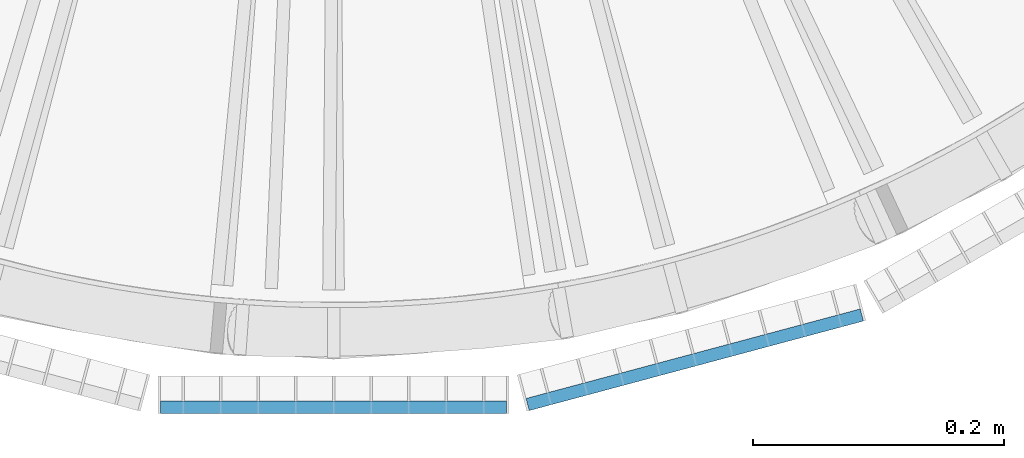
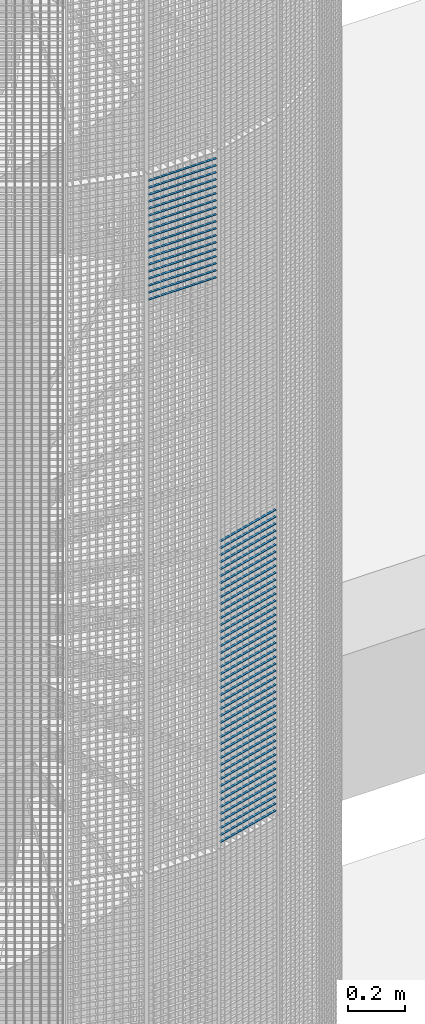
# One storey, part 141 of 1148: 62 beams, 2 elements without a shape of their own.
"""IFC2X3 building model written with IfcOpenShell, lengths in millimetres."""

import ifcopenshell
import ifcopenshell.guid

model = None  # the IFC model being written
_history = None  # IfcOwnerHistory: only IFC2X3 demands one
_inside = {}  # id of a spatial element -> (the spatial element, [elements in it])
_under = {}  # id of a project, library or spatial element -> (it, [spatial elements below it])
_declared = {}  # id of a project -> (the project, [libraries it declares])
_typed = {}  # id of a type object -> (the type object, [elements of that type])
_made_of = {}  # id of a material, layer set ... -> (it, [elements and type objects made of it])


def new_model(schema):
    """Start an empty IFC model of exactly this schema.

    Asked for "IFC4X3", IfcOpenShell would pick the latest addendum, in which some entities
    have other attributes; the version numbers below select the first issue.
    IFC2X3 requires an IfcOwnerHistory on every rooted entity: one is made here for all.
    """
    global model, _history
    if schema == "IFC4X3":
        model = ifcopenshell.file(schema_version=(4, 3, 0, 0))
    else:
        model = ifcopenshell.file(schema=schema)
    _inside.clear()
    _under.clear()
    _declared.clear()
    _typed.clear()
    _made_of.clear()
    _history = None
    if model.schema == "IFC2X3":
        org = make("IfcOrganization", Name="unknown")
        user = make(
            "IfcPersonAndOrganization",
            ThePerson=make("IfcPerson", FamilyName="unknown"),
            TheOrganization=org,
        )
        app = make(
            "IfcApplication",
            ApplicationDeveloper=org,
            Version="unknown",
            ApplicationFullName="unknown",
            ApplicationIdentifier="unknown",
        )
        _history = make(
            "IfcOwnerHistory",
            OwningUser=user,
            OwningApplication=app,
            ChangeAction="ADDED",
            CreationDate=0,
        )
    return model


def make(cls, **values):
    """One entity of the class cls with the attributes given. An attribute that is None is left unset."""
    return model.create_entity(
        cls, **{name: value for name, value in values.items() if value is not None}
    )


def rooted(cls, **values):
    """An entity with a GlobalId (a new one), such as an element, a storey or a relation."""
    return make(cls, GlobalId=ifcopenshell.guid.new(), OwnerHistory=_history, **values)


def si_unit(unit_type, name, prefix=None):
    """IfcSIUnit, for example si_unit("LENGTHUNIT", "METRE", prefix="MILLI")."""
    return make("IfcSIUnit", UnitType=unit_type, Prefix=prefix, Name=name)


def assignment(units):
    """IfcUnitAssignment: the units of a project."""
    return None if units is None else make("IfcUnitAssignment", Units=units)


def point(xyz):
    """IfcCartesianPoint."""
    return None if xyz is None else make("IfcCartesianPoint", Coordinates=xyz)


def direction(xyz):
    """IfcDirection."""
    return None if xyz is None else make("IfcDirection", DirectionRatios=xyz)


def frame(location, z_axis=None, x_axis=None):
    """IfcAxis2Placement3D, a coordinate frame: its origin and axes. An axis left out is left unset."""
    return make(
        "IfcAxis2Placement3D",
        Location=point(location),
        Axis=direction(z_axis),
        RefDirection=direction(x_axis),
    )


def frame_2d(location, x_axis=None):
    """IfcAxis2Placement2D, a coordinate frame in the plane: its origin and x axis."""
    return make(
        "IfcAxis2Placement2D", Location=point(location), RefDirection=direction(x_axis)
    )


def origin_with_axes():
    """The frame at (0, 0, 0) with the z axis (0, 0, 1) and the x axis (1, 0, 0) written out."""
    return frame((0.0, 0.0, 0.0), z_axis=(0.0, 0.0, 1.0), x_axis=(1.0, 0.0, 0.0))


def origin_2d_with_axis():
    """The frame at (0, 0) in the plane with the x axis (1, 0) written out."""
    return frame_2d((0.0, 0.0), x_axis=(1.0, 0.0))


def place(relative_to, where):
    """IfcLocalPlacement: puts the frame where relative to a parent placement (None: the world)."""
    return make(
        "IfcLocalPlacement", PlacementRelTo=relative_to, RelativePlacement=where
    )


def context(
    kind, dimensions, precision=None, world=None, true_north=None, identifier=None
):
    """IfcGeometricRepresentationContext, for example the 3D "Model" context."""
    return make(
        "IfcGeometricRepresentationContext",
        ContextIdentifier=identifier,
        ContextType=kind,
        CoordinateSpaceDimension=dimensions,
        Precision=precision,
        WorldCoordinateSystem=world,
        TrueNorth=true_north,
    )


def subcontext(parent, identifier, kind, view, scale=None):
    """IfcGeometricRepresentationSubContext, for example "Body" below "Model"."""
    return make(
        "IfcGeometricRepresentationSubContext",
        ContextIdentifier=identifier,
        ContextType=kind,
        ParentContext=parent,
        TargetScale=scale,
        TargetView=view,
    )


def project(units=None, contexts=None):
    """IfcProject with its units and contexts."""
    return rooted(
        "IfcProject",
        Name="project",
        RepresentationContexts=contexts,
        UnitsInContext=assignment(units),
    )


def spatial(cls, under=None, at=None, **own):
    """A site, building, storey or space (cls), placed at a placement, below another one or the project."""
    s = rooted(cls, ObjectPlacement=at, **own)
    if under is not None:
        _under.setdefault(under.id(), (under, []))[1].append(s)
    return s


def profile(cls, at=None, kind="AREA", **sizes):
    """A parametric profile (cls). Its sizes go by their IFC names, for example OverallWidth=200.0."""
    return make(cls, ProfileType=kind, Position=at, **sizes)


def rectangle(**sizes):
    """IfcRectangleProfileDef."""
    return profile("IfcRectangleProfileDef", **sizes)


def extrude(swept, where, along, depth):
    """IfcExtrudedAreaSolid: the profile swept, set in the frame where, extruded along a direction by depth."""
    return make(
        "IfcExtrudedAreaSolid",
        SweptArea=swept,
        Position=where,
        ExtrudedDirection=direction(along),
        Depth=depth,
    )


def shape(context_of_items, identifier, shape_type, items):
    """IfcShapeRepresentation: the items that make up one representation, for example the "Body"."""
    return make(
        "IfcShapeRepresentation",
        ContextOfItems=context_of_items,
        RepresentationIdentifier=identifier,
        RepresentationType=shape_type,
        Items=items,
    )


def material(Name=None, Category=None):
    """IfcMaterial."""
    return make("IfcMaterial", Name=Name, Category=Category)


def made_of(thing, what):
    """Note that an element or type object is made of a material, layer set ...; save() writes the relation."""
    if what is not None:
        _made_of.setdefault(what.id(), (what, []))[1].append(thing)
    return thing


def type_object(cls, material=None, **own):
    """A type object (cls), such as IfcWallType, which elements share."""
    return made_of(rooted(cls, **own), material)


def element(
    cls,
    number,
    at=None,
    inside=None,
    cuts=None,
    type_object=None,
    material=None,
    context=None,
    identifier="Body",
    shape_type=None,
    held_by="IfcProductDefinitionShape",
    body=None,
    shapes=None,
    **own,
):
    """One element of the class cls, such as IfcWall. Its Tag is "e" and its number.

    at: its placement. inside: the storey or other place that contains it. cuts: it is an
    opening in that element (IfcRelVoidsElement). A single representation is given by context,
    identifier, shape_type and body (its items); several are given by shapes. held_by: the class
    of the entity that holds the representations. save() writes the other relations.
    """
    e = rooted(cls, Tag="e%d" % number, ObjectPlacement=at, **own)
    if body is not None:
        shapes = [shape(context, identifier, shape_type, body)]
    if shapes is not None:
        e.Representation = make(held_by, Representations=shapes)
    if inside is not None:
        _inside.setdefault(inside.id(), (inside, []))[1].append(e)
    if cuts is not None:
        rooted(
            "IfcRelVoidsElement", RelatingBuildingElement=cuts, RelatedOpeningElement=e
        )
    if type_object is not None:
        _typed.setdefault(type_object.id(), (type_object, []))[1].append(e)
    return made_of(e, material)


def aggregate(whole, parts):
    """IfcRelAggregates: a whole, such as a stair, and the parts it consists of."""
    return rooted("IfcRelAggregates", RelatingObject=whole, RelatedObjects=parts)


def save(model, path):
    """Write the relations noted so far, then the file.

    IfcRelAggregates (storeys below a building ...), IfcRelContainedInSpatialStructure (elements
    in a storey), IfcRelDefinesByType, IfcRelAssociatesMaterial and IfcRelDeclares: one each for
    every whole, place, type object, material and project.
    """
    for whole, parts in _under.values():
        aggregate(whole, parts)
    for where, things in _inside.values():
        rooted(
            "IfcRelContainedInSpatialStructure",
            RelatedElements=things,
            RelatingStructure=where,
        )
    for kind, things in _typed.values():
        rooted("IfcRelDefinesByType", RelatedObjects=things, RelatingType=kind)
    for what, things in _made_of.values():
        rooted("IfcRelAssociatesMaterial", RelatedObjects=things, RelatingMaterial=what)
    for by, libraries in _declared.values():
        rooted("IfcRelDeclares", RelatingContext=by, RelatedDefinitions=libraries)
    model.write(path)


model = new_model("IFC2X3")

# Units and contexts
model_context = context("Model", 3, precision=1e-05, world=origin_with_axes())
body_context = subcontext(model_context, "Body", "Model", "MODEL_VIEW")
ifc_project = project(units=[si_unit("LENGTHUNIT", "METRE", prefix="MILLI"), si_unit("AREAUNIT", "SQUARE_METRE"), si_unit("VOLUMEUNIT", "CUBIC_METRE"), si_unit("MASSUNIT", "GRAM", prefix="KILO"), si_unit("TIMEUNIT", "SECOND"), si_unit("PLANEANGLEUNIT", "RADIAN"), si_unit("SOLIDANGLEUNIT", "STERADIAN"), si_unit("THERMODYNAMICTEMPERATUREUNIT", "DEGREE_CELSIUS"), si_unit("LUMINOUSINTENSITYUNIT", "LUMEN")], contexts=[model_context])

# Site, building, storey
site_placement = place(None, origin_with_axes())
site = spatial("IfcSite", under=ifc_project, at=site_placement, Name="Undefined", CompositionType="ELEMENT")
building_placement = place(site_placement, origin_with_axes())
building = spatial("IfcBuilding", under=site, at=building_placement, Name="Undefined", CompositionType="ELEMENT")
storey_placement = place(building_placement, origin_with_axes())
storey = spatial("IfcBuildingStorey", under=building, at=storey_placement, Name="Undefined", CompositionType="ELEMENT", Elevation=0.0)

# Assembly, beams
assembly_1_placement = place(storey_placement, origin_with_axes())
assembly_1 = element("IfcElementAssembly", 1, at=assembly_1_placement, inside=storey, Name="BORDURE", AssemblyPlace="NOTDEFINED", PredefinedType="NOTDEFINED")
ifc_material = material(Name="STEEL/S235JR")
beam_type = type_object("IfcBeamType", Name="PL2*10", PredefinedType="NOTDEFINED")
beam_1_placement = place(assembly_1_placement, frame((154.895926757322, -1111.25508286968, 13320.0), z_axis=(0.258819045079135, -0.965925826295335, 0.0), x_axis=(0.965925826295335, 0.258819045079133, 0.0)))
beam_1 = element("IfcBeam", 2, at=beam_1_placement, type_object=beam_type, material=ifc_material, Name="ENTRETOISE", context=body_context, shape_type="SweptSolid", body=[
    extrude(rectangle(XDim=2.0, YDim=10.0, at=origin_2d_with_axis()), frame((275.999999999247, 9.09494701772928e-13, 1.53210777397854e-14), z_axis=(-1.0, 0.0, 0.0), x_axis=(0.0, -1.0, 0.0)), (0.0, 0.0, 1.0), 276.0),
])
beam_2_placement = place(assembly_1_placement, frame((154.895926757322, -1111.25508286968, 13290.0), z_axis=(0.258819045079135, -0.965925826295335, 0.0), x_axis=(0.965925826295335, 0.258819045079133, 0.0)))
beam_2 = element("IfcBeam", 3, at=beam_2_placement, type_object=beam_type, material=ifc_material, Name="ENTRETOISE", context=body_context, shape_type="SweptSolid", body=[
    extrude(rectangle(XDim=2.0, YDim=10.0, at=origin_2d_with_axis()), frame((275.999999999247, 9.09494701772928e-13, 1.53210777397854e-14), z_axis=(-1.0, 0.0, 0.0), x_axis=(0.0, -1.0, 0.0)), (0.0, 0.0, 1.0), 276.0),
])
beam_3_placement = place(assembly_1_placement, frame((154.895926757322, -1111.25508286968, 13260.0), z_axis=(0.258819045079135, -0.965925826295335, 0.0), x_axis=(0.965925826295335, 0.258819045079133, 0.0)))
beam_3 = element("IfcBeam", 4, at=beam_3_placement, type_object=beam_type, material=ifc_material, Name="ENTRETOISE", context=body_context, shape_type="SweptSolid", body=[
    extrude(rectangle(XDim=2.0, YDim=10.0, at=origin_2d_with_axis()), frame((275.999999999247, 9.09494701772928e-13, 1.53210777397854e-14), z_axis=(-1.0, 0.0, 0.0), x_axis=(0.0, -1.0, 0.0)), (0.0, 0.0, 1.0), 276.0),
])
beam_4_placement = place(assembly_1_placement, frame((154.895926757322, -1111.25508286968, 13230.0), z_axis=(0.258819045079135, -0.965925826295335, 0.0), x_axis=(0.965925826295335, 0.258819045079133, 0.0)))
beam_4 = element("IfcBeam", 5, at=beam_4_placement, type_object=beam_type, material=ifc_material, Name="ENTRETOISE", context=body_context, shape_type="SweptSolid", body=[
    extrude(rectangle(XDim=2.0, YDim=10.0, at=origin_2d_with_axis()), frame((275.999999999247, 9.09494701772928e-13, 1.53210777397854e-14), z_axis=(-1.0, 0.0, 0.0), x_axis=(0.0, -1.0, 0.0)), (0.0, 0.0, 1.0), 276.0),
])
beam_5_placement = place(assembly_1_placement, frame((154.895926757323, -1111.25508286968, 13200.0), z_axis=(0.258819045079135, -0.965925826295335, 0.0), x_axis=(0.965925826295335, 0.258819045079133, 0.0)))
beam_5 = element("IfcBeam", 6, at=beam_5_placement, type_object=beam_type, material=ifc_material, Name="ENTRETOISE", context=body_context, shape_type="SweptSolid", body=[
    extrude(rectangle(XDim=2.0, YDim=10.0, at=origin_2d_with_axis()), frame((275.999999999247, 9.09494701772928e-13, 1.53210777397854e-14), z_axis=(-1.0, 0.0, 0.0), x_axis=(0.0, -1.0, 0.0)), (0.0, 0.0, 1.0), 276.0),
])
beam_6_placement = place(assembly_1_placement, frame((154.895926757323, -1111.25508286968, 13170.0), z_axis=(0.258819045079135, -0.965925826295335, 0.0), x_axis=(0.965925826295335, 0.258819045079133, 0.0)))
beam_6 = element("IfcBeam", 7, at=beam_6_placement, type_object=beam_type, material=ifc_material, Name="ENTRETOISE", context=body_context, shape_type="SweptSolid", body=[
    extrude(rectangle(XDim=2.0, YDim=10.0, at=origin_2d_with_axis()), frame((275.999999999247, 9.09494701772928e-13, 1.53210777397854e-14), z_axis=(-1.0, 0.0, 0.0), x_axis=(0.0, -1.0, 0.0)), (0.0, 0.0, 1.0), 276.0),
])
beam_7_placement = place(assembly_1_placement, frame((154.895926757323, -1111.25508286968, 13140.0), z_axis=(0.258819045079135, -0.965925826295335, 0.0), x_axis=(0.965925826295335, 0.258819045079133, 0.0)))
beam_7 = element("IfcBeam", 8, at=beam_7_placement, type_object=beam_type, material=ifc_material, Name="ENTRETOISE", context=body_context, shape_type="SweptSolid", body=[
    extrude(rectangle(XDim=2.0, YDim=10.0, at=origin_2d_with_axis()), frame((275.999999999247, 9.09494701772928e-13, 1.53210777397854e-14), z_axis=(-1.0, 0.0, 0.0), x_axis=(0.0, -1.0, 0.0)), (0.0, 0.0, 1.0), 276.0),
])
beam_8_placement = place(assembly_1_placement, frame((154.895926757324, -1111.25508286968, 12720.0), z_axis=(0.258819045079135, -0.965925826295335, 0.0), x_axis=(0.965925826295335, 0.258819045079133, 0.0)))
beam_8 = element("IfcBeam", 9, at=beam_8_placement, type_object=beam_type, material=ifc_material, Name="ENTRETOISE", context=body_context, shape_type="SweptSolid", body=[
    extrude(rectangle(XDim=2.0, YDim=10.0, at=origin_2d_with_axis()), frame((275.999999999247, 9.09494701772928e-13, 1.53210777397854e-14), z_axis=(-1.0, 0.0, 0.0), x_axis=(0.0, -1.0, 0.0)), (0.0, 0.0, 1.0), 276.0),
])
beam_9_placement = place(assembly_1_placement, frame((154.895926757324, -1111.25508286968, 12690.0), z_axis=(0.258819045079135, -0.965925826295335, 0.0), x_axis=(0.965925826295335, 0.258819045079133, 0.0)))
beam_9 = element("IfcBeam", 10, at=beam_9_placement, type_object=beam_type, material=ifc_material, Name="ENTRETOISE", context=body_context, shape_type="SweptSolid", body=[
    extrude(rectangle(XDim=2.0, YDim=10.0, at=origin_2d_with_axis()), frame((275.999999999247, 9.09494701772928e-13, 1.53210777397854e-14), z_axis=(-1.0, 0.0, 0.0), x_axis=(0.0, -1.0, 0.0)), (0.0, 0.0, 1.0), 276.0),
])
beam_10_placement = place(assembly_1_placement, frame((154.895926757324, -1111.25508286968, 12750.0), z_axis=(0.258819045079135, -0.965925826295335, 0.0), x_axis=(0.965925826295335, 0.258819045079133, 0.0)))
beam_10 = element("IfcBeam", 11, at=beam_10_placement, type_object=beam_type, material=ifc_material, Name="ENTRETOISE", context=body_context, shape_type="SweptSolid", body=[
    extrude(rectangle(XDim=2.0, YDim=10.0, at=origin_2d_with_axis()), frame((275.999999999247, 9.09494701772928e-13, 1.53210777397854e-14), z_axis=(-1.0, 0.0, 0.0), x_axis=(0.0, -1.0, 0.0)), (0.0, 0.0, 1.0), 276.0),
])
beam_11_placement = place(assembly_1_placement, frame((154.895926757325, -1111.25508286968, 12660.0), z_axis=(0.258819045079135, -0.965925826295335, 0.0), x_axis=(0.965925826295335, 0.258819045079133, 0.0)))
beam_11 = element("IfcBeam", 12, at=beam_11_placement, type_object=beam_type, material=ifc_material, Name="ENTRETOISE", context=body_context, shape_type="SweptSolid", body=[
    extrude(rectangle(XDim=2.0, YDim=10.0, at=origin_2d_with_axis()), frame((275.999999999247, 9.09494701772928e-13, 1.53210777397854e-14), z_axis=(-1.0, 0.0, 0.0), x_axis=(0.0, -1.0, 0.0)), (0.0, 0.0, 1.0), 276.0),
])
beam_12_placement = place(assembly_1_placement, frame((154.895926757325, -1111.25508286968, 12630.0), z_axis=(0.258819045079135, -0.965925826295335, 0.0), x_axis=(0.965925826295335, 0.258819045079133, 0.0)))
beam_12 = element("IfcBeam", 13, at=beam_12_placement, type_object=beam_type, material=ifc_material, Name="ENTRETOISE", context=body_context, shape_type="SweptSolid", body=[
    extrude(rectangle(XDim=2.0, YDim=10.0, at=origin_2d_with_axis()), frame((275.999999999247, 9.09494701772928e-13, 1.53210777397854e-14), z_axis=(-1.0, 0.0, 0.0), x_axis=(0.0, -1.0, 0.0)), (0.0, 0.0, 1.0), 276.0),
])
beam_13_placement = place(assembly_1_placement, frame((154.895926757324, -1111.25508286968, 12780.0), z_axis=(0.258819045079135, -0.965925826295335, 0.0), x_axis=(0.965925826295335, 0.258819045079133, 0.0)))
beam_13 = element("IfcBeam", 14, at=beam_13_placement, type_object=beam_type, material=ifc_material, Name="ENTRETOISE", context=body_context, shape_type="SweptSolid", body=[
    extrude(rectangle(XDim=2.0, YDim=10.0, at=origin_2d_with_axis()), frame((275.999999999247, 9.09494701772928e-13, 1.53210777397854e-14), z_axis=(-1.0, 0.0, 0.0), x_axis=(0.0, -1.0, 0.0)), (0.0, 0.0, 1.0), 276.0),
])
beam_14_placement = place(assembly_1_placement, frame((154.895926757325, -1111.25508286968, 12600.0), z_axis=(0.258819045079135, -0.965925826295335, 0.0), x_axis=(0.965925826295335, 0.258819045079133, 0.0)))
beam_14 = element("IfcBeam", 15, at=beam_14_placement, type_object=beam_type, material=ifc_material, Name="ENTRETOISE", context=body_context, shape_type="SweptSolid", body=[
    extrude(rectangle(XDim=2.0, YDim=10.0, at=origin_2d_with_axis()), frame((275.999999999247, 9.09494701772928e-13, 1.53210777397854e-14), z_axis=(-1.0, 0.0, 0.0), x_axis=(0.0, -1.0, 0.0)), (0.0, 0.0, 1.0), 276.0),
])
beam_15_placement = place(assembly_1_placement, frame((154.895926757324, -1111.25508286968, 12810.0), z_axis=(0.258819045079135, -0.965925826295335, 0.0), x_axis=(0.965925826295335, 0.258819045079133, 0.0)))
beam_15 = element("IfcBeam", 16, at=beam_15_placement, type_object=beam_type, material=ifc_material, Name="ENTRETOISE", context=body_context, shape_type="SweptSolid", body=[
    extrude(rectangle(XDim=2.0, YDim=10.0, at=origin_2d_with_axis()), frame((275.999999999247, 9.09494701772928e-13, 1.53210777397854e-14), z_axis=(-1.0, 0.0, 0.0), x_axis=(0.0, -1.0, 0.0)), (0.0, 0.0, 1.0), 276.0),
])
beam_16_placement = place(assembly_1_placement, frame((154.895926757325, -1111.25508286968, 12570.0), z_axis=(0.258819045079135, -0.965925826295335, 0.0), x_axis=(0.965925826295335, 0.258819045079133, 0.0)))
beam_16 = element("IfcBeam", 17, at=beam_16_placement, type_object=beam_type, material=ifc_material, Name="ENTRETOISE", context=body_context, shape_type="SweptSolid", body=[
    extrude(rectangle(XDim=2.0, YDim=10.0, at=origin_2d_with_axis()), frame((275.999999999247, 9.09494701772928e-13, 1.53210777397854e-14), z_axis=(-1.0, 0.0, 0.0), x_axis=(0.0, -1.0, 0.0)), (0.0, 0.0, 1.0), 276.0),
])
beam_17_placement = place(assembly_1_placement, frame((154.895926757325, -1111.25508286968, 12540.0), z_axis=(0.258819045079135, -0.965925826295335, 0.0), x_axis=(0.965925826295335, 0.258819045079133, 0.0)))
beam_17 = element("IfcBeam", 18, at=beam_17_placement, type_object=beam_type, material=ifc_material, Name="ENTRETOISE", context=body_context, shape_type="SweptSolid", body=[
    extrude(rectangle(XDim=2.0, YDim=10.0, at=origin_2d_with_axis()), frame((275.999999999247, 9.09494701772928e-13, 1.53210777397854e-14), z_axis=(-1.0, 0.0, 0.0), x_axis=(0.0, -1.0, 0.0)), (0.0, 0.0, 1.0), 276.0),
])
beam_18_placement = place(assembly_1_placement, frame((154.895926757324, -1111.25508286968, 12840.0), z_axis=(0.258819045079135, -0.965925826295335, 0.0), x_axis=(0.965925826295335, 0.258819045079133, 0.0)))
beam_18 = element("IfcBeam", 19, at=beam_18_placement, type_object=beam_type, material=ifc_material, Name="ENTRETOISE", context=body_context, shape_type="SweptSolid", body=[
    extrude(rectangle(XDim=2.0, YDim=10.0, at=origin_2d_with_axis()), frame((275.999999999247, 9.09494701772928e-13, 1.53210777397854e-14), z_axis=(-1.0, 0.0, 0.0), x_axis=(0.0, -1.0, 0.0)), (0.0, 0.0, 1.0), 276.0),
])
beam_19_placement = place(assembly_1_placement, frame((154.895926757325, -1111.25508286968, 12510.0), z_axis=(0.258819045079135, -0.965925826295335, 0.0), x_axis=(0.965925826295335, 0.258819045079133, 0.0)))
beam_19 = element("IfcBeam", 20, at=beam_19_placement, type_object=beam_type, material=ifc_material, Name="ENTRETOISE", context=body_context, shape_type="SweptSolid", body=[
    extrude(rectangle(XDim=2.0, YDim=10.0, at=origin_2d_with_axis()), frame((275.999999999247, 9.09494701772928e-13, 1.53210777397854e-14), z_axis=(-1.0, 0.0, 0.0), x_axis=(0.0, -1.0, 0.0)), (0.0, 0.0, 1.0), 276.0),
])
beam_20_placement = place(assembly_1_placement, frame((154.895926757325, -1111.25508286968, 12480.0), z_axis=(0.258819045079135, -0.965925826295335, 0.0), x_axis=(0.965925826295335, 0.258819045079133, 0.0)))
beam_20 = element("IfcBeam", 21, at=beam_20_placement, type_object=beam_type, material=ifc_material, Name="ENTRETOISE", context=body_context, shape_type="SweptSolid", body=[
    extrude(rectangle(XDim=2.0, YDim=10.0, at=origin_2d_with_axis()), frame((275.999999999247, 9.09494701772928e-13, 1.53210777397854e-14), z_axis=(-1.0, 0.0, 0.0), x_axis=(0.0, -1.0, 0.0)), (0.0, 0.0, 1.0), 276.0),
])
beam_21_placement = place(assembly_1_placement, frame((154.895926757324, -1111.25508286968, 12870.0), z_axis=(0.258819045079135, -0.965925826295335, 0.0), x_axis=(0.965925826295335, 0.258819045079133, 0.0)))
beam_21 = element("IfcBeam", 22, at=beam_21_placement, type_object=beam_type, material=ifc_material, Name="ENTRETOISE", context=body_context, shape_type="SweptSolid", body=[
    extrude(rectangle(XDim=2.0, YDim=10.0, at=origin_2d_with_axis()), frame((275.999999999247, 9.09494701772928e-13, 1.53210777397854e-14), z_axis=(-1.0, 0.0, 0.0), x_axis=(0.0, -1.0, 0.0)), (0.0, 0.0, 1.0), 276.0),
])
beam_22_placement = place(assembly_1_placement, frame((154.895926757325, -1111.25508286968, 12450.0), z_axis=(0.258819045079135, -0.965925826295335, 0.0), x_axis=(0.965925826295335, 0.258819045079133, 0.0)))
beam_22 = element("IfcBeam", 23, at=beam_22_placement, type_object=beam_type, material=ifc_material, Name="ENTRETOISE", context=body_context, shape_type="SweptSolid", body=[
    extrude(rectangle(XDim=2.0, YDim=10.0, at=origin_2d_with_axis()), frame((275.999999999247, 9.09494701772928e-13, 1.53210777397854e-14), z_axis=(-1.0, 0.0, 0.0), x_axis=(0.0, -1.0, 0.0)), (0.0, 0.0, 1.0), 276.0),
])
beam_23_placement = place(assembly_1_placement, frame((154.895926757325, -1111.25508286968, 12420.0), z_axis=(0.258819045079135, -0.965925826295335, 0.0), x_axis=(0.965925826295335, 0.258819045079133, 0.0)))
beam_23 = element("IfcBeam", 24, at=beam_23_placement, type_object=beam_type, material=ifc_material, Name="ENTRETOISE", context=body_context, shape_type="SweptSolid", body=[
    extrude(rectangle(XDim=2.0, YDim=10.0, at=origin_2d_with_axis()), frame((275.999999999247, 9.09494701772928e-13, 1.53210777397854e-14), z_axis=(-1.0, 0.0, 0.0), x_axis=(0.0, -1.0, 0.0)), (0.0, 0.0, 1.0), 276.0),
])
beam_24_placement = place(assembly_1_placement, frame((154.895926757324, -1111.25508286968, 12900.0), z_axis=(0.258819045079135, -0.965925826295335, 0.0), x_axis=(0.965925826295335, 0.258819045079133, 0.0)))
beam_24 = element("IfcBeam", 25, at=beam_24_placement, type_object=beam_type, material=ifc_material, Name="ENTRETOISE", context=body_context, shape_type="SweptSolid", body=[
    extrude(rectangle(XDim=2.0, YDim=10.0, at=origin_2d_with_axis()), frame((275.999999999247, 9.09494701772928e-13, 1.53210777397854e-14), z_axis=(-1.0, 0.0, 0.0), x_axis=(0.0, -1.0, 0.0)), (0.0, 0.0, 1.0), 276.0),
])
beam_25_placement = place(assembly_1_placement, frame((154.895926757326, -1111.25508286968, 12390.0), z_axis=(0.258819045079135, -0.965925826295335, 0.0), x_axis=(0.965925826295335, 0.258819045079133, 0.0)))
beam_25 = element("IfcBeam", 26, at=beam_25_placement, type_object=beam_type, material=ifc_material, Name="ENTRETOISE", context=body_context, shape_type="SweptSolid", body=[
    extrude(rectangle(XDim=2.0, YDim=10.0, at=origin_2d_with_axis()), frame((275.999999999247, 9.09494701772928e-13, 1.53210777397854e-14), z_axis=(-1.0, 0.0, 0.0), x_axis=(0.0, -1.0, 0.0)), (0.0, 0.0, 1.0), 276.0),
])
beam_26_placement = place(assembly_1_placement, frame((154.895926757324, -1111.25508286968, 12930.0), z_axis=(0.258819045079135, -0.965925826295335, 0.0), x_axis=(0.965925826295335, 0.258819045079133, 0.0)))
beam_26 = element("IfcBeam", 27, at=beam_26_placement, type_object=beam_type, material=ifc_material, Name="ENTRETOISE", context=body_context, shape_type="SweptSolid", body=[
    extrude(rectangle(XDim=2.0, YDim=10.0, at=origin_2d_with_axis()), frame((275.999999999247, 9.09494701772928e-13, 1.53210777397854e-14), z_axis=(-1.0, 0.0, 0.0), x_axis=(0.0, -1.0, 0.0)), (0.0, 0.0, 1.0), 276.0),
])
beam_27_placement = place(assembly_1_placement, frame((154.895926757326, -1111.25508286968, 12360.0), z_axis=(0.258819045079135, -0.965925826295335, 0.0), x_axis=(0.965925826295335, 0.258819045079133, 0.0)))
beam_27 = element("IfcBeam", 28, at=beam_27_placement, type_object=beam_type, material=ifc_material, Name="ENTRETOISE", context=body_context, shape_type="SweptSolid", body=[
    extrude(rectangle(XDim=2.0, YDim=10.0, at=origin_2d_with_axis()), frame((275.999999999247, 9.09494701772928e-13, 1.53210777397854e-14), z_axis=(-1.0, 0.0, 0.0), x_axis=(0.0, -1.0, 0.0)), (0.0, 0.0, 1.0), 276.0),
])
beam_28_placement = place(assembly_1_placement, frame((154.895926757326, -1111.25508286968, 12330.0), z_axis=(0.258819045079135, -0.965925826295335, 0.0), x_axis=(0.965925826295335, 0.258819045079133, 0.0)))
beam_28 = element("IfcBeam", 29, at=beam_28_placement, type_object=beam_type, material=ifc_material, Name="ENTRETOISE", context=body_context, shape_type="SweptSolid", body=[
    extrude(rectangle(XDim=2.0, YDim=10.0, at=origin_2d_with_axis()), frame((275.999999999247, 9.09494701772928e-13, 1.53210777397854e-14), z_axis=(-1.0, 0.0, 0.0), x_axis=(0.0, -1.0, 0.0)), (0.0, 0.0, 1.0), 276.0),
])
beam_29_placement = place(assembly_1_placement, frame((154.895926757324, -1111.25508286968, 12960.0), z_axis=(0.258819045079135, -0.965925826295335, 0.0), x_axis=(0.965925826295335, 0.258819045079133, 0.0)))
beam_29 = element("IfcBeam", 30, at=beam_29_placement, type_object=beam_type, material=ifc_material, Name="ENTRETOISE", context=body_context, shape_type="SweptSolid", body=[
    extrude(rectangle(XDim=2.0, YDim=10.0, at=origin_2d_with_axis()), frame((275.999999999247, 9.09494701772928e-13, 1.53210777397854e-14), z_axis=(-1.0, 0.0, 0.0), x_axis=(0.0, -1.0, 0.0)), (0.0, 0.0, 1.0), 276.0),
])
beam_30_placement = place(assembly_1_placement, frame((154.895926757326, -1111.25508286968, 12300.0), z_axis=(0.258819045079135, -0.965925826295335, 0.0), x_axis=(0.965925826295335, 0.258819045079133, 0.0)))
beam_30 = element("IfcBeam", 31, at=beam_30_placement, type_object=beam_type, material=ifc_material, Name="ENTRETOISE", context=body_context, shape_type="SweptSolid", body=[
    extrude(rectangle(XDim=2.0, YDim=10.0, at=origin_2d_with_axis()), frame((275.999999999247, 9.09494701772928e-13, 1.53210777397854e-14), z_axis=(-1.0, 0.0, 0.0), x_axis=(0.0, -1.0, 0.0)), (0.0, 0.0, 1.0), 276.0),
])
beam_31_placement = place(assembly_1_placement, frame((154.895926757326, -1111.25508286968, 12270.0), z_axis=(0.258819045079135, -0.965925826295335, 0.0), x_axis=(0.965925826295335, 0.258819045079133, 0.0)))
beam_31 = element("IfcBeam", 32, at=beam_31_placement, type_object=beam_type, material=ifc_material, Name="ENTRETOISE", context=body_context, shape_type="SweptSolid", body=[
    extrude(rectangle(XDim=2.0, YDim=10.0, at=origin_2d_with_axis()), frame((275.999999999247, 9.09494701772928e-13, 1.53210777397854e-14), z_axis=(-1.0, 0.0, 0.0), x_axis=(0.0, -1.0, 0.0)), (0.0, 0.0, 1.0), 276.0),
])
beam_32_placement = place(assembly_1_placement, frame((154.895926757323, -1111.25508286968, 12990.0), z_axis=(0.258819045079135, -0.965925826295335, 0.0), x_axis=(0.965925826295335, 0.258819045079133, 0.0)))
beam_32 = element("IfcBeam", 33, at=beam_32_placement, type_object=beam_type, material=ifc_material, Name="ENTRETOISE", context=body_context, shape_type="SweptSolid", body=[
    extrude(rectangle(XDim=2.0, YDim=10.0, at=origin_2d_with_axis()), frame((275.999999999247, 9.09494701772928e-13, 1.53210777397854e-14), z_axis=(-1.0, 0.0, 0.0), x_axis=(0.0, -1.0, 0.0)), (0.0, 0.0, 1.0), 276.0),
])
beam_33_placement = place(assembly_1_placement, frame((154.895926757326, -1111.25508286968, 12240.0), z_axis=(0.258819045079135, -0.965925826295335, 0.0), x_axis=(0.965925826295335, 0.258819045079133, 0.0)))
beam_33 = element("IfcBeam", 34, at=beam_33_placement, type_object=beam_type, material=ifc_material, Name="ENTRETOISE", context=body_context, shape_type="SweptSolid", body=[
    extrude(rectangle(XDim=2.0, YDim=10.0, at=origin_2d_with_axis()), frame((275.999999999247, 9.09494701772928e-13, 1.53210777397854e-14), z_axis=(-1.0, 0.0, 0.0), x_axis=(0.0, -1.0, 0.0)), (0.0, 0.0, 1.0), 276.0),
])
beam_34_placement = place(assembly_1_placement, frame((154.895926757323, -1111.25508286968, 13020.0), z_axis=(0.258819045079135, -0.965925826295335, 0.0), x_axis=(0.965925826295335, 0.258819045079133, 0.0)))
beam_34 = element("IfcBeam", 35, at=beam_34_placement, type_object=beam_type, material=ifc_material, Name="ENTRETOISE", context=body_context, shape_type="SweptSolid", body=[
    extrude(rectangle(XDim=2.0, YDim=10.0, at=origin_2d_with_axis()), frame((275.999999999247, 9.09494701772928e-13, 1.53210777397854e-14), z_axis=(-1.0, 0.0, 0.0), x_axis=(0.0, -1.0, 0.0)), (0.0, 0.0, 1.0), 276.0),
])
beam_35_placement = place(assembly_1_placement, frame((154.895926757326, -1111.25508286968, 12210.0), z_axis=(0.258819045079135, -0.965925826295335, 0.0), x_axis=(0.965925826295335, 0.258819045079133, 0.0)))
beam_35 = element("IfcBeam", 36, at=beam_35_placement, type_object=beam_type, material=ifc_material, Name="ENTRETOISE", context=body_context, shape_type="SweptSolid", body=[
    extrude(rectangle(XDim=2.0, YDim=10.0, at=origin_2d_with_axis()), frame((275.999999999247, 9.09494701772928e-13, 1.53210777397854e-14), z_axis=(-1.0, 0.0, 0.0), x_axis=(0.0, -1.0, 0.0)), (0.0, 0.0, 1.0), 276.0),
])
beam_36_placement = place(assembly_1_placement, frame((154.895926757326, -1111.25508286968, 12180.0), z_axis=(0.258819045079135, -0.965925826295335, 0.0), x_axis=(0.965925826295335, 0.258819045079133, 0.0)))
beam_36 = element("IfcBeam", 37, at=beam_36_placement, type_object=beam_type, material=ifc_material, Name="ENTRETOISE", context=body_context, shape_type="SweptSolid", body=[
    extrude(rectangle(XDim=2.0, YDim=10.0, at=origin_2d_with_axis()), frame((275.999999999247, 9.09494701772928e-13, 1.53210777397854e-14), z_axis=(-1.0, 0.0, 0.0), x_axis=(0.0, -1.0, 0.0)), (0.0, 0.0, 1.0), 276.0),
])
beam_37_placement = place(assembly_1_placement, frame((154.895926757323, -1111.25508286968, 13050.0), z_axis=(0.258819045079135, -0.965925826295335, 0.0), x_axis=(0.965925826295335, 0.258819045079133, 0.0)))
beam_37 = element("IfcBeam", 38, at=beam_37_placement, type_object=beam_type, material=ifc_material, Name="ENTRETOISE", context=body_context, shape_type="SweptSolid", body=[
    extrude(rectangle(XDim=2.0, YDim=10.0, at=origin_2d_with_axis()), frame((275.999999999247, 9.09494701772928e-13, 1.53210777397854e-14), z_axis=(-1.0, 0.0, 0.0), x_axis=(0.0, -1.0, 0.0)), (0.0, 0.0, 1.0), 276.0),
])
beam_38_placement = place(assembly_1_placement, frame((154.895926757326, -1111.25508286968, 12150.0), z_axis=(0.258819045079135, -0.965925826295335, 0.0), x_axis=(0.965925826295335, 0.258819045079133, 0.0)))
beam_38 = element("IfcBeam", 39, at=beam_38_placement, type_object=beam_type, material=ifc_material, Name="ENTRETOISE", context=body_context, shape_type="SweptSolid", body=[
    extrude(rectangle(XDim=2.0, YDim=10.0, at=origin_2d_with_axis()), frame((275.999999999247, 9.09494701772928e-13, 1.53210777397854e-14), z_axis=(-1.0, 0.0, 0.0), x_axis=(0.0, -1.0, 0.0)), (0.0, 0.0, 1.0), 276.0),
])
beam_39_placement = place(assembly_1_placement, frame((154.895926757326, -1111.25508286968, 12120.0), z_axis=(0.258819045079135, -0.965925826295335, 0.0), x_axis=(0.965925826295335, 0.258819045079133, 0.0)))
beam_39 = element("IfcBeam", 40, at=beam_39_placement, type_object=beam_type, material=ifc_material, Name="ENTRETOISE", context=body_context, shape_type="SweptSolid", body=[
    extrude(rectangle(XDim=2.0, YDim=10.0, at=origin_2d_with_axis()), frame((275.999999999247, 9.09494701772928e-13, 1.53210777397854e-14), z_axis=(-1.0, 0.0, 0.0), x_axis=(0.0, -1.0, 0.0)), (0.0, 0.0, 1.0), 276.0),
])
beam_40_placement = place(assembly_1_placement, frame((154.895926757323, -1111.25508286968, 13080.0), z_axis=(0.258819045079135, -0.965925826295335, 0.0), x_axis=(0.965925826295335, 0.258819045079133, 0.0)))
beam_40 = element("IfcBeam", 41, at=beam_40_placement, type_object=beam_type, material=ifc_material, Name="ENTRETOISE", context=body_context, shape_type="SweptSolid", body=[
    extrude(rectangle(XDim=2.0, YDim=10.0, at=origin_2d_with_axis()), frame((275.999999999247, 9.09494701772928e-13, 1.53210777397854e-14), z_axis=(-1.0, 0.0, 0.0), x_axis=(0.0, -1.0, 0.0)), (0.0, 0.0, 1.0), 276.0),
])
beam_41_placement = place(assembly_1_placement, frame((154.895926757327, -1111.25508286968, 12090.0), z_axis=(0.258819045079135, -0.965925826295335, 0.0), x_axis=(0.965925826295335, 0.258819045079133, 0.0)))
beam_41 = element("IfcBeam", 42, at=beam_41_placement, type_object=beam_type, material=ifc_material, Name="ENTRETOISE", context=body_context, shape_type="SweptSolid", body=[
    extrude(rectangle(XDim=2.0, YDim=10.0, at=origin_2d_with_axis()), frame((275.999999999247, 9.09494701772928e-13, 1.53210777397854e-14), z_axis=(-1.0, 0.0, 0.0), x_axis=(0.0, -1.0, 0.0)), (0.0, 0.0, 1.0), 276.0),
])
beam_42_placement = place(assembly_1_placement, frame((154.895926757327, -1111.25508286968, 12060.0), z_axis=(0.258819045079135, -0.965925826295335, 0.0), x_axis=(0.965925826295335, 0.258819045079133, 0.0)))
beam_42 = element("IfcBeam", 43, at=beam_42_placement, type_object=beam_type, material=ifc_material, Name="ENTRETOISE", context=body_context, shape_type="SweptSolid", body=[
    extrude(rectangle(XDim=2.0, YDim=10.0, at=origin_2d_with_axis()), frame((275.999999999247, 9.09494701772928e-13, 1.53210777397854e-14), z_axis=(-1.0, 0.0, 0.0), x_axis=(0.0, -1.0, 0.0)), (0.0, 0.0, 1.0), 276.0),
])
beam_43_placement = place(assembly_1_placement, frame((154.895926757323, -1111.25508286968, 13110.0), z_axis=(0.258819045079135, -0.965925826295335, 0.0), x_axis=(0.965925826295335, 0.258819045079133, 0.0)))
beam_43 = element("IfcBeam", 44, at=beam_43_placement, type_object=beam_type, material=ifc_material, Name="ENTRETOISE", context=body_context, shape_type="SweptSolid", body=[
    extrude(rectangle(XDim=2.0, YDim=10.0, at=origin_2d_with_axis()), frame((275.999999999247, 9.09494701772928e-13, 1.53210777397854e-14), z_axis=(-1.0, 0.0, 0.0), x_axis=(0.0, -1.0, 0.0)), (0.0, 0.0, 1.0), 276.0),
])
beam_44_placement = place(assembly_1_placement, frame((154.895926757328, -1111.25508286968, 12030.0), z_axis=(0.258819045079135, -0.965925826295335, 0.0), x_axis=(0.965925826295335, 0.258819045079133, 0.0)))
beam_44 = element("IfcBeam", 45, at=beam_44_placement, type_object=beam_type, material=ifc_material, Name="ENTRETOISE", context=body_context, shape_type="SweptSolid", body=[
    extrude(rectangle(XDim=2.0, YDim=10.0, at=origin_2d_with_axis()), frame((275.999999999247, 9.09494701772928e-13, 1.53210777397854e-14), z_axis=(-1.0, 0.0, 0.0), x_axis=(0.0, -1.0, 0.0)), (0.0, 0.0, 1.0), 276.0),
])
aggregate(assembly_1, [beam_1, beam_2, beam_3, beam_4, beam_5, beam_6, beam_7, beam_8, beam_9, beam_10, beam_11, beam_12, beam_13, beam_14, beam_15, beam_16, beam_17, beam_18, beam_19, beam_20, beam_21, beam_22, beam_23, beam_24, beam_25, beam_26, beam_27, beam_28, beam_29, beam_30, beam_31, beam_32, beam_33, beam_34, beam_35, beam_36, beam_37, beam_38, beam_39, beam_40, beam_41, beam_42, beam_43, beam_44])

assembly_2_placement = place(storey_placement, origin_with_axes())
assembly_2 = element("IfcElementAssembly", 46, at=assembly_2_placement, inside=storey, Name="BORDURE", AssemblyPlace="NOTDEFINED", PredefinedType="NOTDEFINED")
beam_45_placement = place(assembly_2_placement, frame((-137.996003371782, -1113.47999999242, 14970.0), z_axis=(0.0, -1.0, 0.0), x_axis=(1.0, 0.0, 0.0)))
beam_45 = element("IfcBeam", 47, at=beam_45_placement, type_object=beam_type, material=ifc_material, Name="ENTRETOISE", context=body_context, shape_type="SweptSolid", body=[
    extrude(rectangle(XDim=2.0, YDim=10.0, at=origin_2d_with_axis()), frame((275.999999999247, 9.09494701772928e-13, 1.53210777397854e-14), z_axis=(-1.0, 0.0, 0.0), x_axis=(0.0, -1.0, 0.0)), (0.0, 0.0, 1.0), 276.0),
])
beam_46_placement = place(assembly_2_placement, frame((-137.996003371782, -1113.47999999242, 14940.0), z_axis=(0.0, -1.0, 0.0), x_axis=(1.0, 0.0, 0.0)))
beam_46 = element("IfcBeam", 48, at=beam_46_placement, type_object=beam_type, material=ifc_material, Name="ENTRETOISE", context=body_context, shape_type="SweptSolid", body=[
    extrude(rectangle(XDim=2.0, YDim=10.0, at=origin_2d_with_axis()), frame((275.999999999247, 9.09494701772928e-13, 1.53210777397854e-14), z_axis=(-1.0, 0.0, 0.0), x_axis=(0.0, -1.0, 0.0)), (0.0, 0.0, 1.0), 276.0),
])
beam_47_placement = place(assembly_2_placement, frame((-137.996003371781, -1113.47999999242, 14910.0), z_axis=(0.0, -1.0, 0.0), x_axis=(1.0, 0.0, 0.0)))
beam_47 = element("IfcBeam", 49, at=beam_47_placement, type_object=beam_type, material=ifc_material, Name="ENTRETOISE", context=body_context, shape_type="SweptSolid", body=[
    extrude(rectangle(XDim=2.0, YDim=10.0, at=origin_2d_with_axis()), frame((275.999999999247, 9.09494701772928e-13, 1.53210777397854e-14), z_axis=(-1.0, 0.0, 0.0), x_axis=(0.0, -1.0, 0.0)), (0.0, 0.0, 1.0), 276.0),
])
beam_48_placement = place(assembly_2_placement, frame((-137.996003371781, -1113.47999999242, 14880.0), z_axis=(0.0, -1.0, 0.0), x_axis=(1.0, 0.0, 0.0)))
beam_48 = element("IfcBeam", 50, at=beam_48_placement, type_object=beam_type, material=ifc_material, Name="ENTRETOISE", context=body_context, shape_type="SweptSolid", body=[
    extrude(rectangle(XDim=2.0, YDim=10.0, at=origin_2d_with_axis()), frame((275.999999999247, 9.09494701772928e-13, 1.53210777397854e-14), z_axis=(-1.0, 0.0, 0.0), x_axis=(0.0, -1.0, 0.0)), (0.0, 0.0, 1.0), 276.0),
])
beam_49_placement = place(assembly_2_placement, frame((-137.996003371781, -1113.47999999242, 14850.0), z_axis=(0.0, -1.0, 0.0), x_axis=(1.0, 0.0, 0.0)))
beam_49 = element("IfcBeam", 51, at=beam_49_placement, type_object=beam_type, material=ifc_material, Name="ENTRETOISE", context=body_context, shape_type="SweptSolid", body=[
    extrude(rectangle(XDim=2.0, YDim=10.0, at=origin_2d_with_axis()), frame((275.999999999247, 9.09494701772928e-13, 1.53210777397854e-14), z_axis=(-1.0, 0.0, 0.0), x_axis=(0.0, -1.0, 0.0)), (0.0, 0.0, 1.0), 276.0),
])
beam_50_placement = place(assembly_2_placement, frame((-137.996003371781, -1113.47999999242, 14820.0), z_axis=(0.0, -1.0, 0.0), x_axis=(1.0, 0.0, 0.0)))
beam_50 = element("IfcBeam", 52, at=beam_50_placement, type_object=beam_type, material=ifc_material, Name="ENTRETOISE", context=body_context, shape_type="SweptSolid", body=[
    extrude(rectangle(XDim=2.0, YDim=10.0, at=origin_2d_with_axis()), frame((275.999999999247, 9.09494701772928e-13, 1.53210777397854e-14), z_axis=(-1.0, 0.0, 0.0), x_axis=(0.0, -1.0, 0.0)), (0.0, 0.0, 1.0), 276.0),
])
beam_51_placement = place(assembly_2_placement, frame((-137.996003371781, -1113.47999999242, 14790.0), z_axis=(0.0, -1.0, 0.0), x_axis=(1.0, 0.0, 0.0)))
beam_51 = element("IfcBeam", 53, at=beam_51_placement, type_object=beam_type, material=ifc_material, Name="ENTRETOISE", context=body_context, shape_type="SweptSolid", body=[
    extrude(rectangle(XDim=2.0, YDim=10.0, at=origin_2d_with_axis()), frame((275.999999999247, 9.09494701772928e-13, 1.53210777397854e-14), z_axis=(-1.0, 0.0, 0.0), x_axis=(0.0, -1.0, 0.0)), (0.0, 0.0, 1.0), 276.0),
])
beam_52_placement = place(assembly_2_placement, frame((-137.996003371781, -1113.47999999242, 14760.0), z_axis=(0.0, -1.0, 0.0), x_axis=(1.0, 0.0, 0.0)))
beam_52 = element("IfcBeam", 54, at=beam_52_placement, type_object=beam_type, material=ifc_material, Name="ENTRETOISE", context=body_context, shape_type="SweptSolid", body=[
    extrude(rectangle(XDim=2.0, YDim=10.0, at=origin_2d_with_axis()), frame((275.999999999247, 9.09494701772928e-13, 1.53210777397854e-14), z_axis=(-1.0, 0.0, 0.0), x_axis=(0.0, -1.0, 0.0)), (0.0, 0.0, 1.0), 276.0),
])
beam_53_placement = place(assembly_2_placement, frame((-137.996003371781, -1113.47999999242, 14730.0), z_axis=(0.0, -1.0, 0.0), x_axis=(1.0, 0.0, 0.0)))
beam_53 = element("IfcBeam", 55, at=beam_53_placement, type_object=beam_type, material=ifc_material, Name="ENTRETOISE", context=body_context, shape_type="SweptSolid", body=[
    extrude(rectangle(XDim=2.0, YDim=10.0, at=origin_2d_with_axis()), frame((275.999999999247, 9.09494701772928e-13, 1.53210777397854e-14), z_axis=(-1.0, 0.0, 0.0), x_axis=(0.0, -1.0, 0.0)), (0.0, 0.0, 1.0), 276.0),
])
beam_54_placement = place(assembly_2_placement, frame((-137.996003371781, -1113.47999999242, 14700.0), z_axis=(0.0, -1.0, 0.0), x_axis=(1.0, 0.0, 0.0)))
beam_54 = element("IfcBeam", 56, at=beam_54_placement, type_object=beam_type, material=ifc_material, Name="ENTRETOISE", context=body_context, shape_type="SweptSolid", body=[
    extrude(rectangle(XDim=2.0, YDim=10.0, at=origin_2d_with_axis()), frame((275.999999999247, 9.09494701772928e-13, 1.53210777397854e-14), z_axis=(-1.0, 0.0, 0.0), x_axis=(0.0, -1.0, 0.0)), (0.0, 0.0, 1.0), 276.0),
])
beam_55_placement = place(assembly_2_placement, frame((-137.996003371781, -1113.47999999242, 14670.0), z_axis=(0.0, -1.0, 0.0), x_axis=(1.0, 0.0, 0.0)))
beam_55 = element("IfcBeam", 57, at=beam_55_placement, type_object=beam_type, material=ifc_material, Name="ENTRETOISE", context=body_context, shape_type="SweptSolid", body=[
    extrude(rectangle(XDim=2.0, YDim=10.0, at=origin_2d_with_axis()), frame((275.999999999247, 9.09494701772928e-13, 1.53210777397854e-14), z_axis=(-1.0, 0.0, 0.0), x_axis=(0.0, -1.0, 0.0)), (0.0, 0.0, 1.0), 276.0),
])
beam_56_placement = place(assembly_2_placement, frame((-137.996003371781, -1113.47999999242, 14640.0), z_axis=(0.0, -1.0, 0.0), x_axis=(1.0, 0.0, 0.0)))
beam_56 = element("IfcBeam", 58, at=beam_56_placement, type_object=beam_type, material=ifc_material, Name="ENTRETOISE", context=body_context, shape_type="SweptSolid", body=[
    extrude(rectangle(XDim=2.0, YDim=10.0, at=origin_2d_with_axis()), frame((275.999999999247, 9.09494701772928e-13, 1.53210777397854e-14), z_axis=(-1.0, 0.0, 0.0), x_axis=(0.0, -1.0, 0.0)), (0.0, 0.0, 1.0), 276.0),
])
beam_57_placement = place(assembly_2_placement, frame((-137.99600337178, -1113.47999999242, 14610.0), z_axis=(0.0, -1.0, 0.0), x_axis=(1.0, 0.0, 0.0)))
beam_57 = element("IfcBeam", 59, at=beam_57_placement, type_object=beam_type, material=ifc_material, Name="ENTRETOISE", context=body_context, shape_type="SweptSolid", body=[
    extrude(rectangle(XDim=2.0, YDim=10.0, at=origin_2d_with_axis()), frame((275.999999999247, 9.09494701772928e-13, 1.53210777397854e-14), z_axis=(-1.0, 0.0, 0.0), x_axis=(0.0, -1.0, 0.0)), (0.0, 0.0, 1.0), 276.0),
])
beam_58_placement = place(assembly_2_placement, frame((-137.99600337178, -1113.47999999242, 14580.0), z_axis=(0.0, -1.0, 0.0), x_axis=(1.0, 0.0, 0.0)))
beam_58 = element("IfcBeam", 60, at=beam_58_placement, type_object=beam_type, material=ifc_material, Name="ENTRETOISE", context=body_context, shape_type="SweptSolid", body=[
    extrude(rectangle(XDim=2.0, YDim=10.0, at=origin_2d_with_axis()), frame((275.999999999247, 9.09494701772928e-13, 1.53210777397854e-14), z_axis=(-1.0, 0.0, 0.0), x_axis=(0.0, -1.0, 0.0)), (0.0, 0.0, 1.0), 276.0),
])
beam_59_placement = place(assembly_2_placement, frame((-137.99600337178, -1113.47999999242, 14550.0), z_axis=(0.0, -1.0, 0.0), x_axis=(1.0, 0.0, 0.0)))
beam_59 = element("IfcBeam", 61, at=beam_59_placement, type_object=beam_type, material=ifc_material, Name="ENTRETOISE", context=body_context, shape_type="SweptSolid", body=[
    extrude(rectangle(XDim=2.0, YDim=10.0, at=origin_2d_with_axis()), frame((275.999999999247, 9.09494701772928e-13, 1.53210777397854e-14), z_axis=(-1.0, 0.0, 0.0), x_axis=(0.0, -1.0, 0.0)), (0.0, 0.0, 1.0), 276.0),
])
beam_60_placement = place(assembly_2_placement, frame((-137.99600337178, -1113.47999999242, 14520.0), z_axis=(0.0, -1.0, 0.0), x_axis=(1.0, 0.0, 0.0)))
beam_60 = element("IfcBeam", 62, at=beam_60_placement, type_object=beam_type, material=ifc_material, Name="ENTRETOISE", context=body_context, shape_type="SweptSolid", body=[
    extrude(rectangle(XDim=2.0, YDim=10.0, at=origin_2d_with_axis()), frame((275.999999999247, 9.09494701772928e-13, 1.53210777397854e-14), z_axis=(-1.0, 0.0, 0.0), x_axis=(0.0, -1.0, 0.0)), (0.0, 0.0, 1.0), 276.0),
])
beam_61_placement = place(assembly_2_placement, frame((-137.99600337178, -1113.47999999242, 14490.0), z_axis=(0.0, -1.0, 0.0), x_axis=(1.0, 0.0, 0.0)))
beam_61 = element("IfcBeam", 63, at=beam_61_placement, type_object=beam_type, material=ifc_material, Name="ENTRETOISE", context=body_context, shape_type="SweptSolid", body=[
    extrude(rectangle(XDim=2.0, YDim=10.0, at=origin_2d_with_axis()), frame((275.999999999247, 9.09494701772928e-13, 1.53210777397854e-14), z_axis=(-1.0, 0.0, 0.0), x_axis=(0.0, -1.0, 0.0)), (0.0, 0.0, 1.0), 276.0),
])
beam_62_placement = place(assembly_2_placement, frame((-137.99600337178, -1113.47999999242, 14460.0), z_axis=(0.0, -1.0, 0.0), x_axis=(1.0, 0.0, 0.0)))
beam_62 = element("IfcBeam", 64, at=beam_62_placement, type_object=beam_type, material=ifc_material, Name="ENTRETOISE", context=body_context, shape_type="SweptSolid", body=[
    extrude(rectangle(XDim=2.0, YDim=10.0, at=origin_2d_with_axis()), frame((275.999999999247, 9.09494701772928e-13, 1.53210777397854e-14), z_axis=(-1.0, 0.0, 0.0), x_axis=(0.0, -1.0, 0.0)), (0.0, 0.0, 1.0), 276.0),
])
aggregate(assembly_2, [beam_45, beam_46, beam_47, beam_48, beam_49, beam_50, beam_51, beam_52, beam_53, beam_54, beam_55, beam_56, beam_57, beam_58, beam_59, beam_60, beam_61, beam_62])

save(model, "model.ifc")
